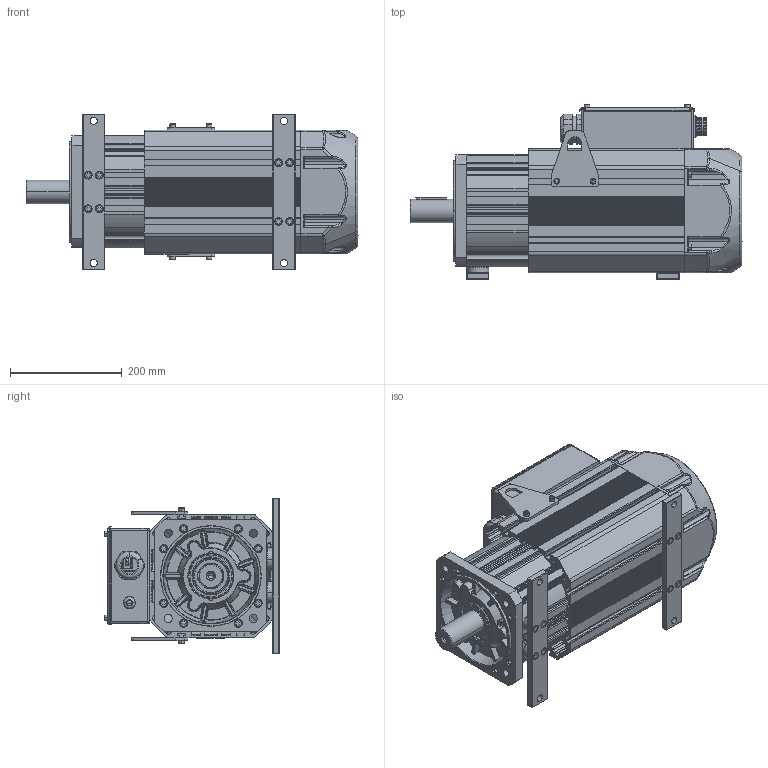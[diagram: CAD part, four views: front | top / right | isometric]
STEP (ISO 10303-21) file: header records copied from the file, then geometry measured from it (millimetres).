
FILE_DESCRIPTION((''),'2;1');
FILE_NAME('160N__SW0001','2025-08-25T08:59:55',('0109502'),(''),'CREO PARAMETRIC BY PTC INC, 2019080','CREO PARAMETRIC BY PTC INC, 2019080','');
FILE_SCHEMA(('CONFIG_CONTROL_DESIGN'));
Products named in the file (1): 160N__SW0001
Bounding box: 593 x 312.5 x 278.25 mm (x, y, z)
Surface area: 1813832.8 mm2 (no closed solid volume)
Topology: 0 solids, 194 shells, 3233 faces, 11334 edges, 8101 vertices
Faces by surface type: plane 1467, cylinder 1098, torus 262, bspline 199, cone 180, sphere 27
Entity records: 136786 total; most frequent: CARTESIAN_POINT 39669, DIRECTION 20604, ORIENTED_EDGE 18455, EDGE_CURVE 11314, VERTEX_POINT 8101, AXIS2_PLACEMENT_3D 7059, VECTOR 6486, LINE 6486
